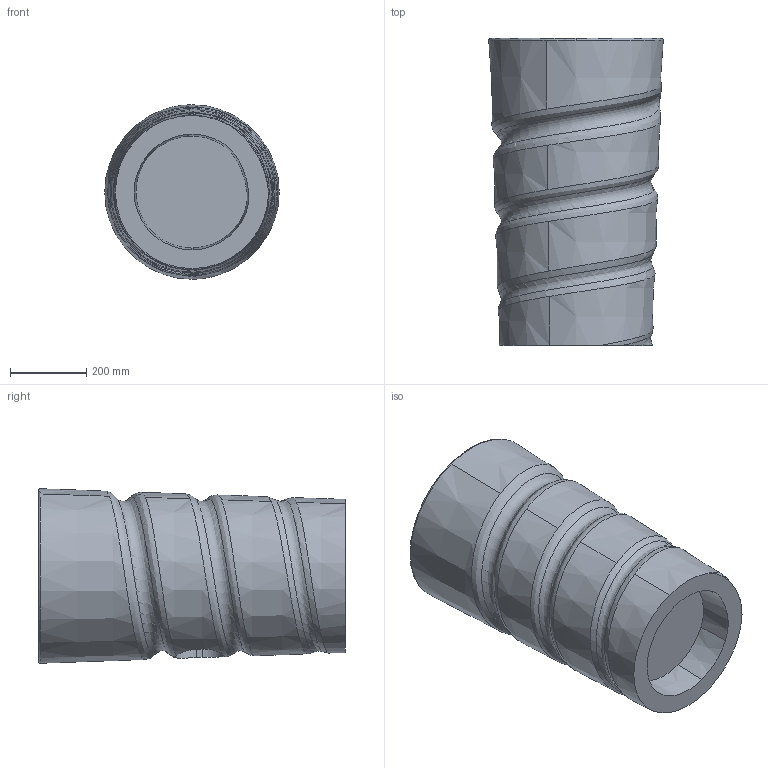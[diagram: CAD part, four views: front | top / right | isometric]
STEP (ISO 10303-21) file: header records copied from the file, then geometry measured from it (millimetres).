
FILE_DESCRIPTION (( 'STEP AP203' ), '1' );
FILE_NAME ('CL084 BATARYA DÜZLEMLÝ.STEP', '2022-04-07T08:35:54', ( '' ), ( '' ), 'SwSTEP 2.0', 'SolidWorks 2021', '' );
FILE_SCHEMA (( 'CONFIG_CONTROL_DESIGN' ));
Products named in the file (1): CL084  BATARYA DÜZLEMLÝ
Bounding box: 458.66 x 807 x 458.66 mm (x, y, z)
Volume: 61176639.1 mm3; surface area: 2288154.7 mm2
Topology: 3 solids, 3 shells, 177 faces, 418 edges, 252 vertices
Faces by surface type: torus 54, bspline 42, cone 30, plane 30, cylinder 19, sphere 2
Entity records: 121185 total; most frequent: CARTESIAN_POINT 117226, ORIENTED_EDGE 828, DIRECTION 822, EDGE_CURVE 414, AXIS2_PLACEMENT_3D 370, VERTEX_POINT 252, CIRCLE 234, EDGE_LOOP 188
